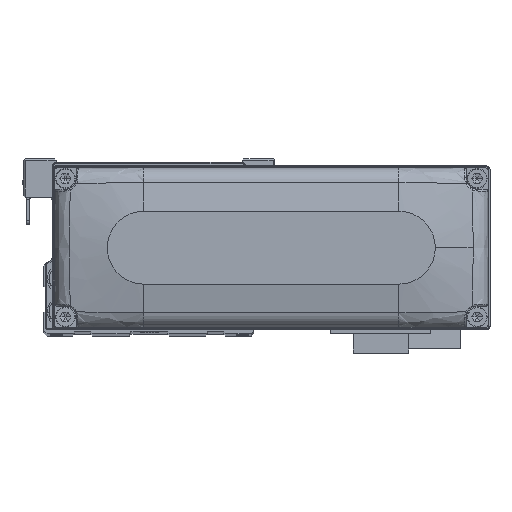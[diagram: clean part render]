
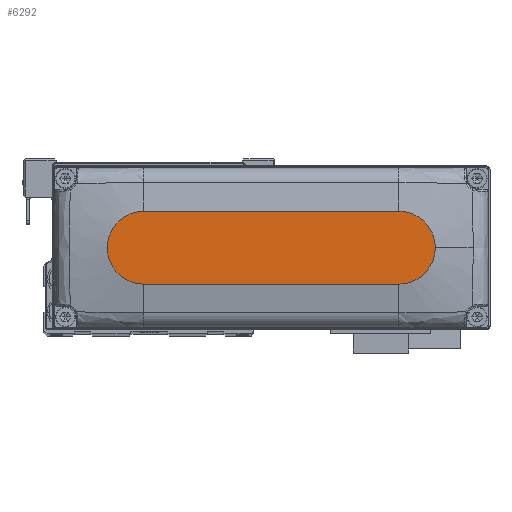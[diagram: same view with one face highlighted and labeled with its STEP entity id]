
A CAD part, top view. The second image highlights one B-rep face of the part: STEP entity #6292.
In plain terms, the highlighted planar face has unit normal (0, 0, 1).
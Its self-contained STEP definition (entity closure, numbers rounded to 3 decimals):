
#420 = CARTESIAN_POINT ( 'NONE',  ( -35., 10., 28. ) ) ;
#714 = LINE ( 'NONE', #12340, #27569 ) ;
#1196 = FACE_OUTER_BOUND ( 'NONE', #33347, .T. ) ;
#1902 = CIRCLE ( 'NONE', #23206, 10. ) ;
#2075 = CIRCLE ( 'NONE', #23381, 10. ) ;
#2994 = CARTESIAN_POINT ( 'NONE',  ( 35., 0., 28. ) ) ;
#4082 = ORIENTED_EDGE ( 'NONE', *, *, #26602, .T. ) ;
#5216 = ORIENTED_EDGE ( 'NONE', *, *, #7752, .T. ) ;
#6079 = CARTESIAN_POINT ( 'NONE',  ( -35., -10., 28. ) ) ;
#6292 = ADVANCED_FACE ( 'NONE', ( #1196 ), #12822, .T. ) ;
#7168 = ORIENTED_EDGE ( 'NONE', *, *, #30005, .T. ) ;
#7752 = EDGE_CURVE ( 'NONE', #25649, #21726, #1902, .T. ) ;
#8253 = ORIENTED_EDGE ( 'NONE', *, *, #18602, .T. ) ;
#8374 = CARTESIAN_POINT ( 'NONE',  ( -35., 0., 28. ) ) ;
#8786 = DIRECTION ( 'NONE',  ( 1., 0., 0. ) ) ;
#9893 = CIRCLE ( 'NONE', #14759, 10. ) ;
#9968 = DIRECTION ( 'NONE',  ( 1., 0., 0. ) ) ;
#10442 = ORIENTED_EDGE ( 'NONE', *, *, #21361, .T. ) ;
#11099 = CARTESIAN_POINT ( 'NONE',  ( 45., 0., 28. ) ) ;
#11229 = VERTEX_POINT ( 'NONE', #19372 ) ;
#12340 = CARTESIAN_POINT ( 'NONE',  ( -35., 10., 28. ) ) ;
#12594 = CARTESIAN_POINT ( 'NONE',  ( 35., -10., 28. ) ) ;
#12822 = PLANE ( 'NONE',  #31882 ) ;
#14617 = DIRECTION ( 'NONE',  ( 0., 0., 1. ) ) ;
#14759 = AXIS2_PLACEMENT_3D ( 'NONE', #23266, #34907, #8786 ) ;
#17295 = CARTESIAN_POINT ( 'NONE',  ( -35., -10., 28. ) ) ;
#17704 = DIRECTION ( 'NONE',  ( 1., 0., 0. ) ) ;
#18602 = EDGE_CURVE ( 'NONE', #11229, #25649, #714, .T. ) ;
#19372 = CARTESIAN_POINT ( 'NONE',  ( 35., 10., 28. ) ) ;
#19998 = DIRECTION ( 'NONE',  ( 0., 0., 1. ) ) ;
#21361 = EDGE_CURVE ( 'NONE', #21726, #31366, #32207, .T. ) ;
#21726 = VERTEX_POINT ( 'NONE', #17295 ) ;
#23206 = AXIS2_PLACEMENT_3D ( 'NONE', #8374, #19998, #31634 ) ;
#23266 = CARTESIAN_POINT ( 'NONE',  ( 35., 0., 28. ) ) ;
#23381 = AXIS2_PLACEMENT_3D ( 'NONE', #2994, #14617, #26251 ) ;
#23974 = DIRECTION ( 'NONE',  ( -1., 0., 0. ) ) ;
#24459 = CARTESIAN_POINT ( 'NONE',  ( 0., 0., 28. ) ) ;
#25649 = VERTEX_POINT ( 'NONE', #420 ) ;
#26251 = DIRECTION ( 'NONE',  ( 1., 0., 0. ) ) ;
#26602 = EDGE_CURVE ( 'NONE', #32447, #11229, #2075, .T. ) ;
#27569 = VECTOR ( 'NONE', #23974, 1000. ) ;
#30005 = EDGE_CURVE ( 'NONE', #31366, #32447, #9893, .T. ) ;
#31366 = VERTEX_POINT ( 'NONE', #12594 ) ;
#31634 = DIRECTION ( 'NONE',  ( 1., 0., 0. ) ) ;
#31882 = AXIS2_PLACEMENT_3D ( 'NONE', #24459, #36085, #9968 ) ;
#32207 = LINE ( 'NONE', #6079, #37659 ) ;
#32447 = VERTEX_POINT ( 'NONE', #11099 ) ;
#33347 = EDGE_LOOP ( 'NONE', ( #8253, #5216, #10442, #7168, #4082 ) ) ;
#34907 = DIRECTION ( 'NONE',  ( 0., 0., 1. ) ) ;
#36085 = DIRECTION ( 'NONE',  ( 0., 0., 1. ) ) ;
#37659 = VECTOR ( 'NONE', #17704, 1000. ) ;
